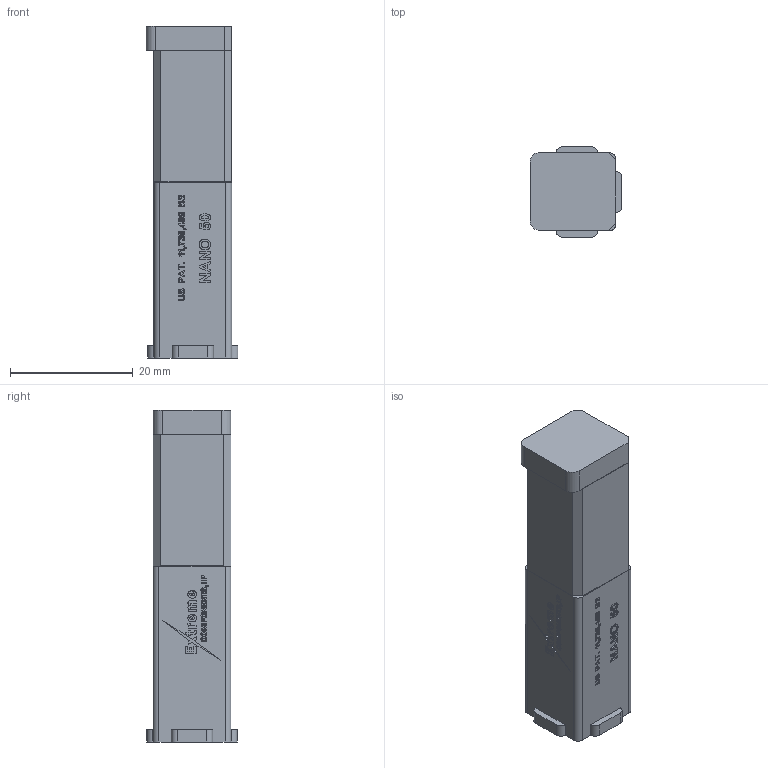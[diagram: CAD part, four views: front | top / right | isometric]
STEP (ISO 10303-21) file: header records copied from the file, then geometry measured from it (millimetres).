
FILE_DESCRIPTION (( 'STEP AP214' ), '1' );
FILE_NAME ('EC NANO 50 x 125 ASSEMBLY.STEP', '2024-10-14T17:14:51', ( '' ), ( '' ), 'SwSTEP 2.0', 'SolidWorks 2022', '' );
FILE_SCHEMA (( 'AUTOMOTIVE_DESIGN' ));
Length unit declared in the file: inch
Products named in the file (3): EC NANO 50 x 125 ASSEMBLY; EC NANO 50X 125 WEB FEMALE; EC NANO 50X 125 WEB MALE
Assembly tree (2 placements, depth 2):
  EC NANO 50 x 125 ASSEMBLY
    EC NANO 50X 125 WEB FEMALE
    EC NANO 50X 125 WEB MALE
Bounding box: 14.98 x 14.72 x 54.1 mm (x, y, z)
Volume: 8366.8 mm3; surface area: 4525.6 mm2
Topology: 3 solids, 3 shells, 1818 faces, 5044 edges, 3360 vertices
Faces by surface type: plane 1428, bspline 302, cylinder 88
Entity records: 80951 total; most frequent: CARTESIAN_POINT 13985, ORIENTED_EDGE 10088, DIRECTION 7658, EDGE_CURVE 5044, VECTOR 4264, LINE 4264, VERTEX_POINT 3360, EDGE_LOOP 1946
